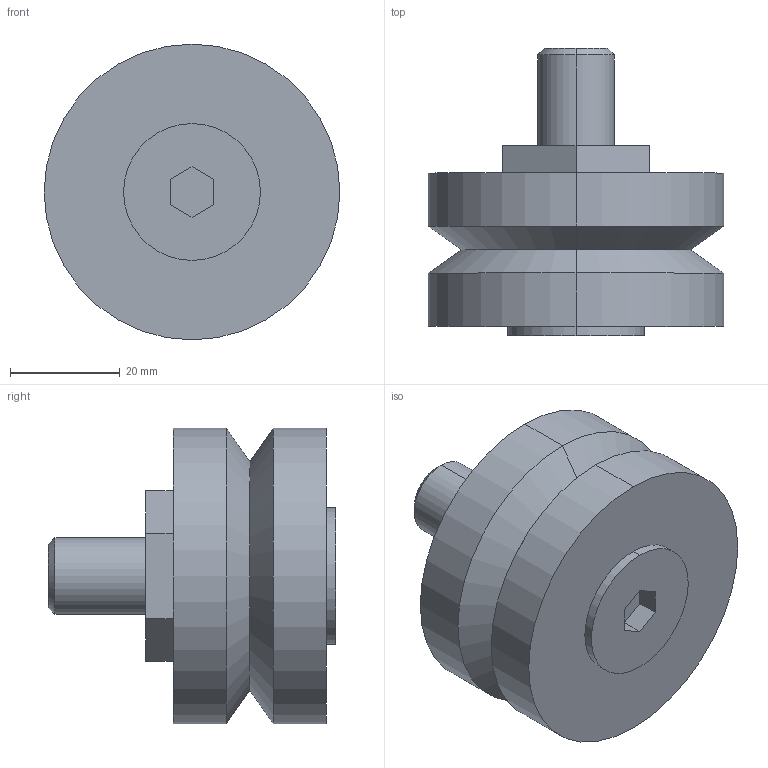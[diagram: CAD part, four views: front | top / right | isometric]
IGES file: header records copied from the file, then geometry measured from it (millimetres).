
Start section: 3D InterOp IGES (Version 21 0 1), Spatial Corp. Copyright (c) 1999-2007.
Global section: file name: RBHJ54C.igs; native system: Spatial Corp.; preprocessor: 3D InterOp GENERIC/IGES 3.0; author: Noname; organization: Noname; date: 20220627.165039; units: millimetre
Bounding box: 54 x 52.5 x 54 mm (x, y, z)
Surface area: 11585.5 mm2 (no closed solid volume)
Topology: 0 solids, 0 shells, 32 faces, 140 edges, 140 vertices
Faces by surface type: extrusion 18, revolution 14
